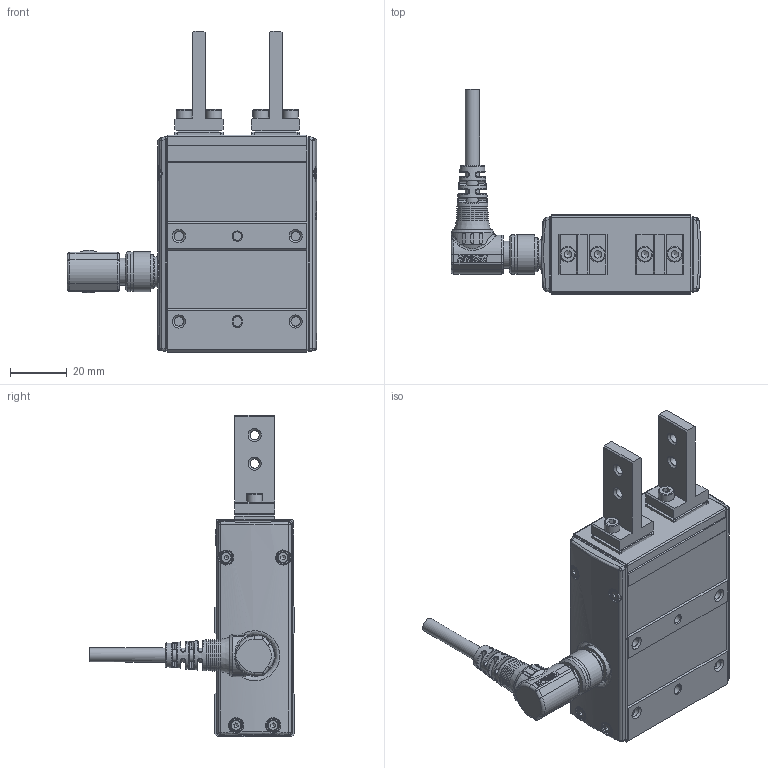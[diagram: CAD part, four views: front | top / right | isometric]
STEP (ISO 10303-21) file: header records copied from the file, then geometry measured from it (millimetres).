
FILE_DESCRIPTION(/* description */ (''),/* implementation_level */ '2;1');
FILE_NAME(/* name */ 'D:\2025.02.25 帶電匯整給泊舟\7. CHZ2系列\CHZ2-N10-WR.stp',/* time_stamp */ '2025-02-26T10:20:24+08:00',/* author */ ('T10033'),/* organization */ (''),/* preprocessor_version */ 'ST-DEVELOPER v18.1',/* originating_system */ 'Autodesk Inventor 2020',/* authorisation */ '');
FILE_SCHEMA (('CONFIG_CONTROL_DESIGN'));
Products named in the file (9): CHZ2-S10-WL; 11003-001130_珠溝研磨(單顆); 12008-000058; 慶陞金屬頭; 7 32T634TSSE3R_Shrinkwrap_1; 43T63T643; 夾頭-正式版; ANSI B18.3.1M - M3x0.5 x 10, FSHCSM; M12-14PIN 線端90度接頭-05中繼線
Assembly tree (14 placements, depth 3):
  CHZ2-S10-WL
    11003-001130_珠溝研磨(單顆)  x2
    12008-000058  x4
    慶陞金屬頭
    7 32T634TSSE3R_Shrinkwrap_1
    43T63T643  x2
      夾頭-正式版
      ANSI B18.3.1M - M3x0.5 x 10, FSHCSM
    M12-14PIN 線端90度接頭-05中繼線
Bounding box: 87.8 x 72.01 x 113 mm (x, y, z)
Volume: 124698.3 mm3; surface area: 42566.8 mm2
Topology: 41 solids, 45 shells, 2320 faces, 6351 edges, 4216 vertices
Faces by surface type: plane 1148, cylinder 512, cone 364, bspline 166, torus 110, sphere 20
Full cylindrical faces by diameter (mm): 0.6 x14, 0.65 x14, 1 x18, 1.567 x8, 2 x8, 2.013 x8, 2.459 x6, 3 x15, 3.2 x4, 3.242 x16, 3.8 x16, 4 x2, 5 x1, 5.5 x8, 6.647 x2, 8 x3, 8.9 x1, 9.5 x2, 9.6 x1, 10.5 x2, 10.9 x1, 11 x2, 11.2 x1, 11.25 x1, 12 x1, 13 x1, 13.8 x1, 14 x2, 14.4 x1
Entity records: 92648 total; most frequent: CARTESIAN_POINT 35972, ORIENTED_EDGE 11512, DIRECTION 11399, EDGE_CURVE 5764, AXIS2_PLACEMENT_3D 4332, VERTEX_POINT 3842, LINE 2735, VECTOR 2735
